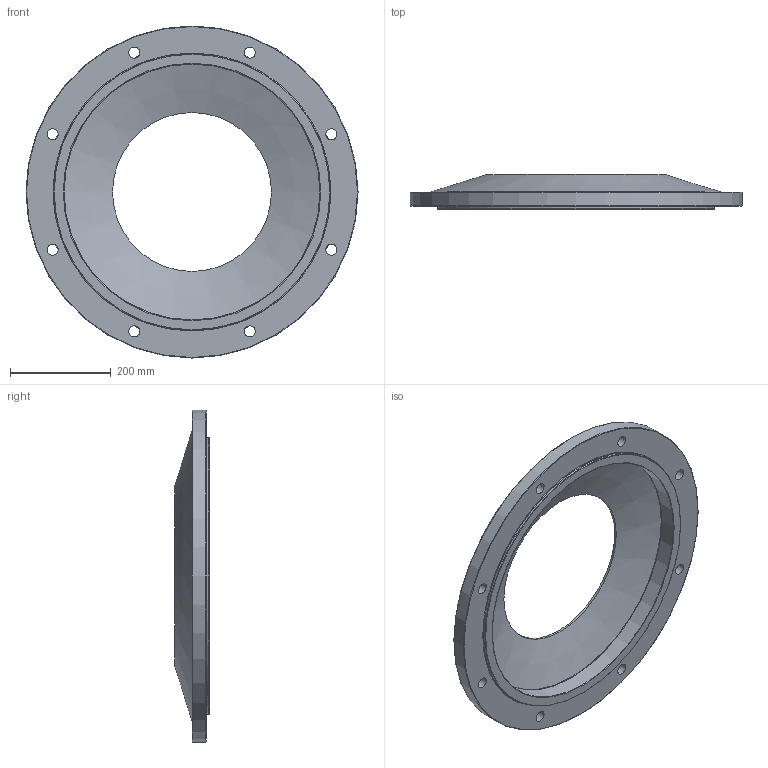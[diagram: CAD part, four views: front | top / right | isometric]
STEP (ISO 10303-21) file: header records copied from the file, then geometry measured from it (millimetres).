
FILE_DESCRIPTION((''),'2;1');
FILE_NAME('D:\PAWEŁ\ZLECENIA\DualSystem\001 Modele\DKAB150_\DK_150_STEP\AF_F_150.stp','2011-12-20T07:33:12',('Pawe'),(''),'Autodesk Inventor 2009','Autodesk Inventor 2009','');
FILE_SCHEMA(('AUTOMOTIVE_DESIGN { 1 0 10303 214 1 1 1 1 }'));
Length unit declared in the file: millimetre
Products named in the file (1): AF_F_150
Bounding box: 660 x 69 x 660 mm (x, y, z)
Volume: 5547878.7 mm3; surface area: 674374.1 mm2
Topology: 1 solids, 1 shells, 33 faces, 86 edges, 49 vertices
Faces by surface type: bspline 19, plane 4, torus 4, cylinder 4, cone 2
Full cylindrical faces by diameter (mm): 316 x1, 510 x1, 550 x1, 660 x1
Entity records: 1098 total; most frequent: CARTESIAN_POINT 404, DIRECTION 142, ORIENTED_EDGE 112, AXIS2_PLACEMENT_3D 71, EDGE_LOOP 66, CIRCLE 56, EDGE_CURVE 56, VERTEX_POINT 40
